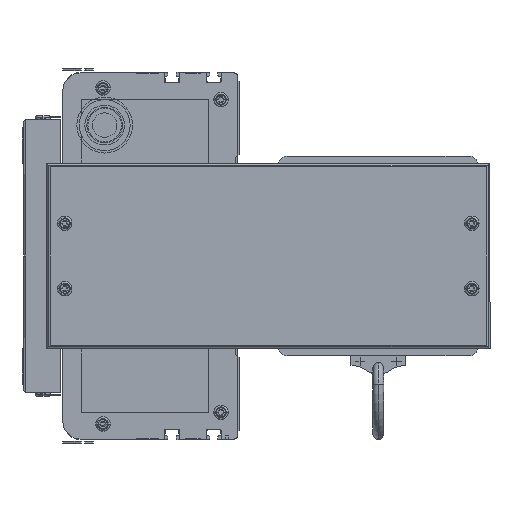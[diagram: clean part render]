
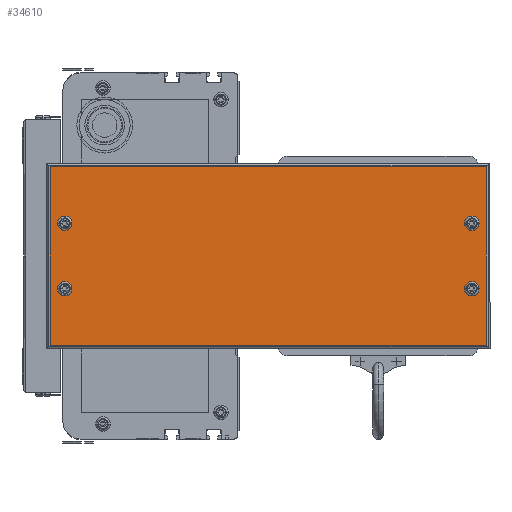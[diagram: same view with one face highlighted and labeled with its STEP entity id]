
A CAD part, left-side view. The second image highlights one B-rep face of the part: STEP entity #34610.
In plain terms, the highlighted planar face has unit normal (-1, 0, 0) as drawn and (1, 0, 0) by its records, which use the part's own axes.
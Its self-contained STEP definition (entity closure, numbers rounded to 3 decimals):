
#33738 = VERTEX_POINT ( 'NONE', #126141 ) ;
#33755 = VERTEX_POINT ( 'NONE', #127170 ) ;
#33802 = EDGE_CURVE ( 'NONE', #33755, #34353, #126738, .T. ) ;
#33862 = VERTEX_POINT ( 'NONE', #127068 ) ;
#33873 = VERTEX_POINT ( 'NONE', #127322 ) ;
#33895 = EDGE_CURVE ( 'NONE', #34427, #34116, #126690, .T. ) ;
#33896 = VERTEX_POINT ( 'NONE', #126714 ) ;
#34116 = VERTEX_POINT ( 'NONE', #128007 ) ;
#34347 = EDGE_CURVE ( 'NONE', #33862, #33873, #128985, .T. ) ;
#34353 = VERTEX_POINT ( 'NONE', #129414 ) ;
#34427 = VERTEX_POINT ( 'NONE', #129679 ) ;
#34540 = EDGE_CURVE ( 'NONE', #33896, #33738, #130485, .T. ) ;
#34598 = ORIENTED_EDGE ( 'NONE', *, *, #34906, .T. ) ;
#34600 = ORIENTED_EDGE ( 'NONE', *, *, #34936, .F. ) ;
#34602 = EDGE_CURVE ( 'NONE', #34892, #34890, #131192, .T. ) ;
#34610 = ADVANCED_FACE ( 'NONE', ( #130751, #130879, #130877, #130723, #130728 ), #130930, .F. ) ;
#34786 = ORIENTED_EDGE ( 'NONE', *, *, #34846, .F. ) ;
#34789 = EDGE_LOOP ( 'NONE', ( #34786, #34873 ) ) ;
#34791 = ORIENTED_EDGE ( 'NONE', *, *, #33895, .F. ) ;
#34797 = ORIENTED_EDGE ( 'NONE', *, *, #33802, .F. ) ;
#34798 = EDGE_LOOP ( 'NONE', ( #34933, #34950 ) ) ;
#34820 = ORIENTED_EDGE ( 'NONE', *, *, #34851, .T. ) ;
#34824 = EDGE_LOOP ( 'NONE', ( #34600, #34791 ) ) ;
#34838 = EDGE_CURVE ( 'NONE', #33738, #33896, #132119, .T. ) ;
#34846 = EDGE_CURVE ( 'NONE', #33873, #33862, #132121, .T. ) ;
#34851 = EDGE_CURVE ( 'NONE', #34948, #34892, #132092, .T. ) ;
#34855 = EDGE_LOOP ( 'NONE', ( #34888, #34797 ) ) ;
#34873 = ORIENTED_EDGE ( 'NONE', *, *, #34347, .F. ) ;
#34882 = ORIENTED_EDGE ( 'NONE', *, *, #34602, .T. ) ;
#34884 = EDGE_CURVE ( 'NONE', #34353, #33755, #131952, .T. ) ;
#34888 = ORIENTED_EDGE ( 'NONE', *, *, #34884, .F. ) ;
#34890 = VERTEX_POINT ( 'NONE', #132012 ) ;
#34892 = VERTEX_POINT ( 'NONE', #132177 ) ;
#34906 = EDGE_CURVE ( 'NONE', #34929, #34948, #132006, .T. ) ;
#34929 = VERTEX_POINT ( 'NONE', #132439 ) ;
#34933 = ORIENTED_EDGE ( 'NONE', *, *, #34838, .F. ) ;
#34936 = EDGE_CURVE ( 'NONE', #34116, #34427, #132347, .T. ) ;
#34946 = EDGE_LOOP ( 'NONE', ( #34882, #34947, #34598, #34820 ) ) ;
#34947 = ORIENTED_EDGE ( 'NONE', *, *, #34949, .T. ) ;
#34948 = VERTEX_POINT ( 'NONE', #132490 ) ;
#34949 = EDGE_CURVE ( 'NONE', #34890, #34929, #132477, .T. ) ;
#34950 = ORIENTED_EDGE ( 'NONE', *, *, #34540, .F. ) ;
#126141 = CARTESIAN_POINT ( 'NONE',  ( 50., 234., -71.5 ) ) ;
#126657 = DIRECTION ( 'NONE',  ( 0., 0., -1. ) ) ;
#126660 = DIRECTION ( 'NONE',  ( 1., 0., 0. ) ) ;
#126663 = AXIS2_PLACEMENT_3D ( 'NONE', #126686, #126660, #126657 ) ;
#126686 = CARTESIAN_POINT ( 'NONE',  ( 50., 10., -33. ) ) ;
#126690 = CIRCLE ( 'NONE', #126663, 2.5 ) ;
#126714 = CARTESIAN_POINT ( 'NONE',  ( 50., 234., -66.5 ) ) ;
#126735 = AXIS2_PLACEMENT_3D ( 'NONE', #127324, #127028, #127025 ) ;
#126738 = CIRCLE ( 'NONE', #126735, 2.5 ) ;
#127025 = DIRECTION ( 'NONE',  ( 0., 0., -1. ) ) ;
#127028 = DIRECTION ( 'NONE',  ( 1., 0., 0. ) ) ;
#127068 = CARTESIAN_POINT ( 'NONE',  ( 50., 234., -30.5 ) ) ;
#127170 = CARTESIAN_POINT ( 'NONE',  ( 50., 10., -66.5 ) ) ;
#127322 = CARTESIAN_POINT ( 'NONE',  ( 50., 234., -35.5 ) ) ;
#127324 = CARTESIAN_POINT ( 'NONE',  ( 50., 10., -69. ) ) ;
#128007 = CARTESIAN_POINT ( 'NONE',  ( 50., 10., -35.5 ) ) ;
#128978 = DIRECTION ( 'NONE',  ( 0., 0., -1. ) ) ;
#128980 = DIRECTION ( 'NONE',  ( 1., 0., 0. ) ) ;
#128982 = AXIS2_PLACEMENT_3D ( 'NONE', #129023, #128980, #128978 ) ;
#128985 = CIRCLE ( 'NONE', #128982, 2.5 ) ;
#129023 = CARTESIAN_POINT ( 'NONE',  ( 50., 234., -33. ) ) ;
#129414 = CARTESIAN_POINT ( 'NONE',  ( 50., 10., -71.5 ) ) ;
#129679 = CARTESIAN_POINT ( 'NONE',  ( 50., 10., -30.5 ) ) ;
#130428 = DIRECTION ( 'NONE',  ( 0., 0., -1. ) ) ;
#130430 = DIRECTION ( 'NONE',  ( 1., 0., 0. ) ) ;
#130444 = CARTESIAN_POINT ( 'NONE',  ( 50., 234., -69. ) ) ;
#130446 = AXIS2_PLACEMENT_3D ( 'NONE', #130444, #130430, #130428 ) ;
#130485 = CIRCLE ( 'NONE', #130446, 2.5 ) ;
#130718 = DIRECTION ( 'NONE',  ( 0., -1., 0. ) ) ;
#130719 = CARTESIAN_POINT ( 'NONE',  ( 50., 244., -2. ) ) ;
#130723 = FACE_BOUND ( 'NONE', #34798, .T. ) ;
#130728 = FACE_BOUND ( 'NONE', #34789, .T. ) ;
#130746 = AXIS2_PLACEMENT_3D ( 'NONE', #130881, #130755, #130787 ) ;
#130751 = FACE_OUTER_BOUND ( 'NONE', #34946, .T. ) ;
#130755 = DIRECTION ( 'NONE',  ( -1., 0., 0. ) ) ;
#130759 = VECTOR ( 'NONE', #130718, 1000. ) ;
#130787 = DIRECTION ( 'NONE',  ( 0., 0., 1. ) ) ;
#130877 = FACE_BOUND ( 'NONE', #34824, .T. ) ;
#130879 = FACE_BOUND ( 'NONE', #34855, .T. ) ;
#130881 = CARTESIAN_POINT ( 'NONE',  ( 50., 244., 0. ) ) ;
#130930 = PLANE ( 'NONE',  #130746 ) ;
#131192 = LINE ( 'NONE', #130719, #130759 ) ;
#131842 = DIRECTION ( 'NONE',  ( 0., 0., 1. ) ) ;
#131866 = CARTESIAN_POINT ( 'NONE',  ( 50., 242., 0. ) ) ;
#131874 = VECTOR ( 'NONE', #131842, 1000. ) ;
#131911 = DIRECTION ( 'NONE',  ( 0., 1., 0. ) ) ;
#131912 = VECTOR ( 'NONE', #131911, 1000. ) ;
#131914 = CARTESIAN_POINT ( 'NONE',  ( 50., 244., -100. ) ) ;
#131952 = CIRCLE ( 'NONE', #132053, 2.5 ) ;
#132006 = LINE ( 'NONE', #131914, #131912 ) ;
#132012 = CARTESIAN_POINT ( 'NONE',  ( 50., 2., -2. ) ) ;
#132019 = DIRECTION ( 'NONE',  ( 0., 0., -1. ) ) ;
#132039 = CARTESIAN_POINT ( 'NONE',  ( 50., 10., -69. ) ) ;
#132045 = DIRECTION ( 'NONE',  ( 1., 0., 0. ) ) ;
#132053 = AXIS2_PLACEMENT_3D ( 'NONE', #132039, #132045, #132019 ) ;
#132084 = DIRECTION ( 'NONE',  ( 0., 0., -1. ) ) ;
#132086 = DIRECTION ( 'NONE',  ( 1., 0., 0. ) ) ;
#132088 = CARTESIAN_POINT ( 'NONE',  ( 50., 234., -33. ) ) ;
#132089 = AXIS2_PLACEMENT_3D ( 'NONE', #132088, #132086, #132084 ) ;
#132092 = LINE ( 'NONE', #131866, #131874 ) ;
#132113 = DIRECTION ( 'NONE',  ( 0., 0., -1. ) ) ;
#132115 = DIRECTION ( 'NONE',  ( 1., 0., 0. ) ) ;
#132116 = CARTESIAN_POINT ( 'NONE',  ( 50., 234., -69. ) ) ;
#132117 = AXIS2_PLACEMENT_3D ( 'NONE', #132116, #132115, #132113 ) ;
#132119 = CIRCLE ( 'NONE', #132117, 2.5 ) ;
#132121 = CIRCLE ( 'NONE', #132089, 2.5 ) ;
#132177 = CARTESIAN_POINT ( 'NONE',  ( 50., 242., -2. ) ) ;
#132347 = CIRCLE ( 'NONE', #132527, 2.5 ) ;
#132439 = CARTESIAN_POINT ( 'NONE',  ( 50., 2., -100. ) ) ;
#132472 = DIRECTION ( 'NONE',  ( 0., 0., -1. ) ) ;
#132474 = VECTOR ( 'NONE', #132472, 1000. ) ;
#132475 = CARTESIAN_POINT ( 'NONE',  ( 50., 2., 0. ) ) ;
#132477 = LINE ( 'NONE', #132475, #132474 ) ;
#132490 = CARTESIAN_POINT ( 'NONE',  ( 50., 242., -100. ) ) ;
#132492 = DIRECTION ( 'NONE',  ( 0., 0., -1. ) ) ;
#132524 = DIRECTION ( 'NONE',  ( 1., 0., 0. ) ) ;
#132526 = CARTESIAN_POINT ( 'NONE',  ( 50., 10., -33. ) ) ;
#132527 = AXIS2_PLACEMENT_3D ( 'NONE', #132526, #132524, #132492 ) ;
